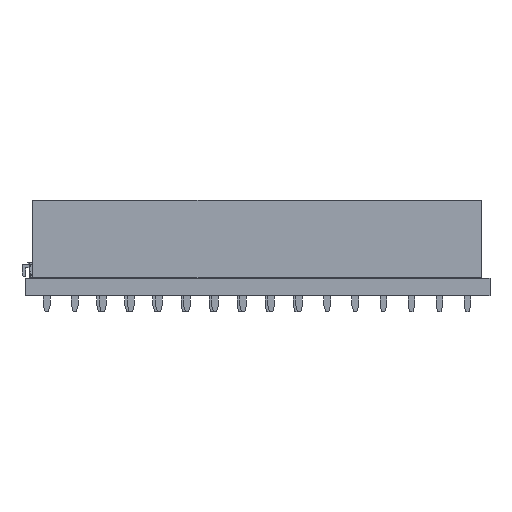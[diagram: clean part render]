
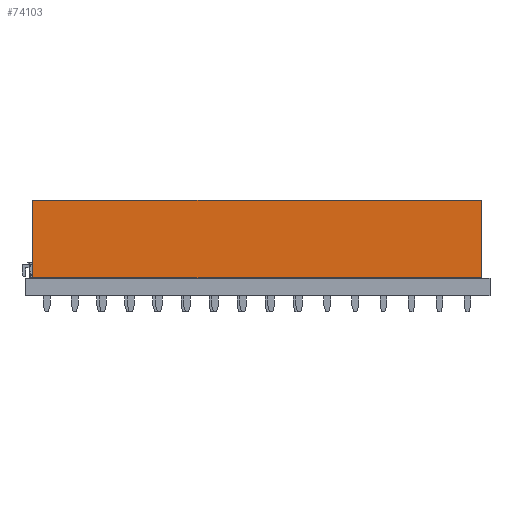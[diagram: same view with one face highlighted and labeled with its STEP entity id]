
A CAD part, left-side view. The second image highlights one B-rep face of the part: STEP entity #74103.
In plain terms, the highlighted planar face has unit normal (-1, 0, 0).
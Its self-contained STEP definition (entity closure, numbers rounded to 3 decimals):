
#68377 = PLANE('',#68378);
#68378 = AXIS2_PLACEMENT_3D('',#68379,#68380,#68381);
#68379 = CARTESIAN_POINT('',(-1.27,-39.37,0.));
#68380 = DIRECTION('',(0.,1.,0.));
#68381 = DIRECTION('',(1.,0.,0.));
#68405 = PLANE('',#68406);
#68406 = AXIS2_PLACEMENT_3D('',#68407,#68408,#68409);
#68407 = CARTESIAN_POINT('',(1.27,-39.37,7.));
#68408 = DIRECTION('',(-0.,0.,-1.));
#68409 = DIRECTION('',(0.,-1.,-0.));
#68433 = PLANE('',#68434);
#68434 = AXIS2_PLACEMENT_3D('',#68435,#68436,#68437);
#68435 = CARTESIAN_POINT('',(1.27,1.27,0.));
#68436 = DIRECTION('',(0.,-1.,0.));
#68437 = DIRECTION('',(-1.,0.,0.));
#68475 = VERTEX_POINT('',#68476);
#68476 = CARTESIAN_POINT('',(-1.27,-39.37,0.));
#68492 = PLANE('',#68493);
#68493 = AXIS2_PLACEMENT_3D('',#68494,#68495,#68496);
#68494 = CARTESIAN_POINT('',(1.27,-39.37,0.));
#68495 = DIRECTION('',(-0.,0.,-1.));
#68496 = DIRECTION('',(0.,-1.,-0.));
#68504 = EDGE_CURVE('',#68475,#68505,#68507,.T.);
#68505 = VERTEX_POINT('',#68506);
#68506 = CARTESIAN_POINT('',(-1.27,-39.37,7.));
#68507 = SURFACE_CURVE('',#68508,(#68512,#68519),.PCURVE_S1.);
#68508 = LINE('',#68509,#68510);
#68509 = CARTESIAN_POINT('',(-1.27,-39.37,0.));
#68510 = VECTOR('',#68511,1.);
#68511 = DIRECTION('',(0.,0.,1.));
#68512 = PCURVE('',#68377,#68513);
#68513 = DEFINITIONAL_REPRESENTATION('',(#68514),#68518);
#68514 = LINE('',#68515,#68516);
#68515 = CARTESIAN_POINT('',(0.,0.));
#68516 = VECTOR('',#68517,1.);
#68517 = DIRECTION('',(0.,-1.));
#68518 = ( GEOMETRIC_REPRESENTATION_CONTEXT(2) 
PARAMETRIC_REPRESENTATION_CONTEXT() REPRESENTATION_CONTEXT('2D SPACE',''
  ) );
#68519 = PCURVE('',#68520,#68525);
#68520 = PLANE('',#68521);
#68521 = AXIS2_PLACEMENT_3D('',#68522,#68523,#68524);
#68522 = CARTESIAN_POINT('',(-1.27,1.27,0.));
#68523 = DIRECTION('',(1.,0.,0.));
#68524 = DIRECTION('',(0.,-1.,0.));
#68525 = DEFINITIONAL_REPRESENTATION('',(#68526),#68530);
#68526 = LINE('',#68527,#68528);
#68527 = CARTESIAN_POINT('',(40.64,0.));
#68528 = VECTOR('',#68529,1.);
#68529 = DIRECTION('',(0.,-1.));
#68530 = ( GEOMETRIC_REPRESENTATION_CONTEXT(2) 
PARAMETRIC_REPRESENTATION_CONTEXT() REPRESENTATION_CONTEXT('2D SPACE',''
  ) );
#68687 = VERTEX_POINT('',#68688);
#68688 = CARTESIAN_POINT('',(-1.27,1.27,7.));
#68709 = EDGE_CURVE('',#68710,#68687,#68712,.T.);
#68710 = VERTEX_POINT('',#68711);
#68711 = CARTESIAN_POINT('',(-1.27,1.27,0.));
#68712 = SURFACE_CURVE('',#68713,(#68717,#68724),.PCURVE_S1.);
#68713 = LINE('',#68714,#68715);
#68714 = CARTESIAN_POINT('',(-1.27,1.27,0.));
#68715 = VECTOR('',#68716,1.);
#68716 = DIRECTION('',(0.,0.,1.));
#68717 = PCURVE('',#68433,#68718);
#68718 = DEFINITIONAL_REPRESENTATION('',(#68719),#68723);
#68719 = LINE('',#68720,#68721);
#68720 = CARTESIAN_POINT('',(2.54,0.));
#68721 = VECTOR('',#68722,1.);
#68722 = DIRECTION('',(0.,-1.));
#68723 = ( GEOMETRIC_REPRESENTATION_CONTEXT(2) 
PARAMETRIC_REPRESENTATION_CONTEXT() REPRESENTATION_CONTEXT('2D SPACE',''
  ) );
#68724 = PCURVE('',#68520,#68725);
#68725 = DEFINITIONAL_REPRESENTATION('',(#68726),#68730);
#68726 = LINE('',#68727,#68728);
#68727 = CARTESIAN_POINT('',(0.,0.));
#68728 = VECTOR('',#68729,1.);
#68729 = DIRECTION('',(0.,-1.));
#68730 = ( GEOMETRIC_REPRESENTATION_CONTEXT(2) 
PARAMETRIC_REPRESENTATION_CONTEXT() REPRESENTATION_CONTEXT('2D SPACE',''
  ) );
#68854 = EDGE_CURVE('',#68687,#68505,#68855,.T.);
#68855 = SURFACE_CURVE('',#68856,(#68860,#68867),.PCURVE_S1.);
#68856 = LINE('',#68857,#68858);
#68857 = CARTESIAN_POINT('',(-1.27,1.27,7.));
#68858 = VECTOR('',#68859,1.);
#68859 = DIRECTION('',(0.,-1.,0.));
#68860 = PCURVE('',#68405,#68861);
#68861 = DEFINITIONAL_REPRESENTATION('',(#68862),#68866);
#68862 = LINE('',#68863,#68864);
#68863 = CARTESIAN_POINT('',(-40.64,2.54));
#68864 = VECTOR('',#68865,1.);
#68865 = DIRECTION('',(1.,0.));
#68866 = ( GEOMETRIC_REPRESENTATION_CONTEXT(2) 
PARAMETRIC_REPRESENTATION_CONTEXT() REPRESENTATION_CONTEXT('2D SPACE',''
  ) );
#68867 = PCURVE('',#68520,#68868);
#68868 = DEFINITIONAL_REPRESENTATION('',(#68869),#68873);
#68869 = LINE('',#68870,#68871);
#68870 = CARTESIAN_POINT('',(0.,-7.));
#68871 = VECTOR('',#68872,1.);
#68872 = DIRECTION('',(1.,0.));
#68873 = ( GEOMETRIC_REPRESENTATION_CONTEXT(2) 
PARAMETRIC_REPRESENTATION_CONTEXT() REPRESENTATION_CONTEXT('2D SPACE',''
  ) );
#70725 = EDGE_CURVE('',#68710,#68475,#70726,.T.);
#70726 = SURFACE_CURVE('',#70727,(#70731,#70738),.PCURVE_S1.);
#70727 = LINE('',#70728,#70729);
#70728 = CARTESIAN_POINT('',(-1.27,1.27,0.));
#70729 = VECTOR('',#70730,1.);
#70730 = DIRECTION('',(0.,-1.,0.));
#70731 = PCURVE('',#68492,#70732);
#70732 = DEFINITIONAL_REPRESENTATION('',(#70733),#70737);
#70733 = LINE('',#70734,#70735);
#70734 = CARTESIAN_POINT('',(-40.64,2.54));
#70735 = VECTOR('',#70736,1.);
#70736 = DIRECTION('',(1.,0.));
#70737 = ( GEOMETRIC_REPRESENTATION_CONTEXT(2) 
PARAMETRIC_REPRESENTATION_CONTEXT() REPRESENTATION_CONTEXT('2D SPACE',''
  ) );
#70738 = PCURVE('',#68520,#70739);
#70739 = DEFINITIONAL_REPRESENTATION('',(#70740),#70744);
#70740 = LINE('',#70741,#70742);
#70741 = CARTESIAN_POINT('',(0.,0.));
#70742 = VECTOR('',#70743,1.);
#70743 = DIRECTION('',(1.,0.));
#70744 = ( GEOMETRIC_REPRESENTATION_CONTEXT(2) 
PARAMETRIC_REPRESENTATION_CONTEXT() REPRESENTATION_CONTEXT('2D SPACE',''
  ) );
#74103 = ADVANCED_FACE('',(#74104),#68520,.F.);
#74104 = FACE_BOUND('',#74105,.F.);
#74105 = EDGE_LOOP('',(#74106,#74107,#74108,#74109));
#74106 = ORIENTED_EDGE('',*,*,#68709,.T.);
#74107 = ORIENTED_EDGE('',*,*,#68854,.T.);
#74108 = ORIENTED_EDGE('',*,*,#68504,.F.);
#74109 = ORIENTED_EDGE('',*,*,#70725,.F.);
